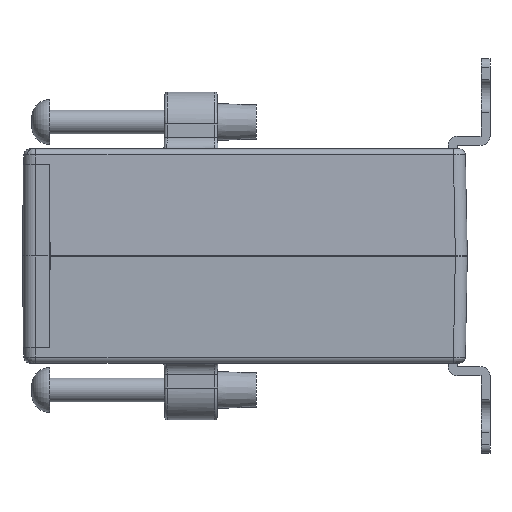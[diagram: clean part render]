
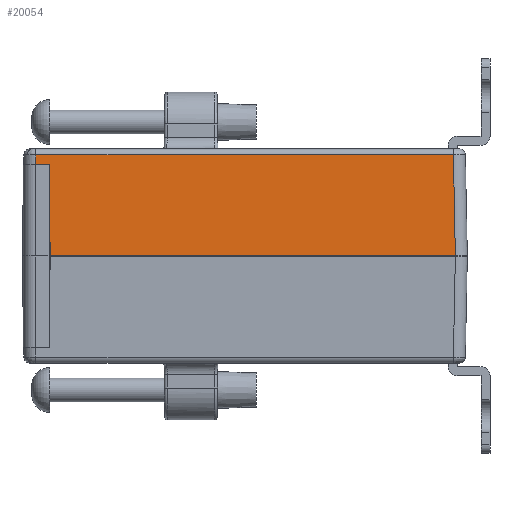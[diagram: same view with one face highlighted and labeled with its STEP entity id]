
A CAD part, left-side view. The second image highlights one B-rep face of the part: STEP entity #20054.
In plain terms, the highlighted planar face has unit normal (-1, 0, 0.019).
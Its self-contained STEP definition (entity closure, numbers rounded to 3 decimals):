
#600 = EDGE_CURVE ( 'NONE', #26166, #28615, #24438, .T. ) ;
#673 = EDGE_LOOP ( 'NONE', ( #8449, #3197, #12053, #15232, #9242, #26592, #20111 ) ) ;
#1307 = CARTESIAN_POINT ( 'NONE',  ( -1.935, -2.875, 17.962 ) ) ;
#1542 = VECTOR ( 'NONE', #4982, 1000. ) ;
#2334 = DIRECTION ( 'NONE',  ( 0., -1., 0. ) ) ;
#3197 = ORIENTED_EDGE ( 'NONE', *, *, #11518, .T. ) ;
#3206 = CARTESIAN_POINT ( 'NONE',  ( -2.28, -3.22, 0. ) ) ;
#3807 = CARTESIAN_POINT ( 'NONE',  ( -2.28, 64.51, 0. ) ) ;
#4023 = CARTESIAN_POINT ( 'NONE',  ( -2.28, -3.22, 0.011 ) ) ;
#4587 = LINE ( 'NONE', #15107, #12160 ) ;
#4982 = DIRECTION ( 'NONE',  ( -0.019, 0., -1. ) ) ;
#5139 = VECTOR ( 'NONE', #10763, 1000. ) ;
#5263 = LINE ( 'NONE', #3206, #1542 ) ;
#5993 = EDGE_CURVE ( 'NONE', #24108, #26166, #24553, .T. ) ;
#6678 = CARTESIAN_POINT ( 'NONE',  ( -2.28, -58., 0. ) ) ;
#6867 = CARTESIAN_POINT ( 'NONE',  ( -1.985, 45.845, 15.35 ) ) ;
#7860 = VERTEX_POINT ( 'NONE', #4023 ) ;
#8139 = VECTOR ( 'NONE', #26911, 1000. ) ;
#8449 = ORIENTED_EDGE ( 'NONE', *, *, #13591, .T. ) ;
#8815 = CARTESIAN_POINT ( 'NONE',  ( -2.28, 45.845, 0. ) ) ;
#9240 = CARTESIAN_POINT ( 'NONE',  ( -2.28, -3.22, 0. ) ) ;
#9242 = ORIENTED_EDGE ( 'NONE', *, *, #600, .T. ) ;
#9446 = EDGE_CURVE ( 'NONE', #7860, #16250, #5263, .T. ) ;
#9902 = EDGE_CURVE ( 'NONE', #20363, #24108, #25661, .T. ) ;
#10361 = CARTESIAN_POINT ( 'NONE',  ( -1.953, 66.894, 17.019 ) ) ;
#10613 = DIRECTION ( 'NONE',  ( -0.019, 0.019, -1. ) ) ;
#10763 = DIRECTION ( 'NONE',  ( 0., 1., 0. ) ) ;
#11101 = EDGE_CURVE ( 'NONE', #16250, #28615, #18065, .T. ) ;
#11447 = CARTESIAN_POINT ( 'NONE',  ( -1.944, 64.724, 17.485 ) ) ;
#11518 = EDGE_CURVE ( 'NONE', #22414, #20363, #4587, .T. ) ;
#12053 = ORIENTED_EDGE ( 'NONE', *, *, #9902, .T. ) ;
#12160 = VECTOR ( 'NONE', #20078, 1000. ) ;
#12294 = DIRECTION ( 'NONE',  ( 0.019, 0.019, 1. ) ) ;
#13591 = EDGE_CURVE ( 'NONE', #7860, #22414, #14197, .T. ) ;
#14197 = LINE ( 'NONE', #1307, #25799 ) ;
#15107 = CARTESIAN_POINT ( 'NONE',  ( -1.953, 66.875, 17.019 ) ) ;
#15232 = ORIENTED_EDGE ( 'NONE', *, *, #5993, .T. ) ;
#16250 = VERTEX_POINT ( 'NONE', #9240 ) ;
#17177 = CARTESIAN_POINT ( 'NONE',  ( -2.272, 67.212, 0.41 ) ) ;
#18065 = LINE ( 'NONE', #6678, #5139 ) ;
#18273 = CARTESIAN_POINT ( 'NONE',  ( -1.985, 64.698, 15.35 ) ) ;
#20054 = ADVANCED_FACE ( 'NONE', ( #24155 ), #24019, .T. ) ;
#20078 = DIRECTION ( 'NONE',  ( 0., 1., 0. ) ) ;
#20111 = ORIENTED_EDGE ( 'NONE', *, *, #9446, .F. ) ;
#20363 = VERTEX_POINT ( 'NONE', #10361 ) ;
#21701 = CARTESIAN_POINT ( 'NONE',  ( -1.953, -2.894, 17.019 ) ) ;
#21846 = VECTOR ( 'NONE', #2334, 1000. ) ;
#22003 = CARTESIAN_POINT ( 'NONE',  ( -1.985, 66.926, 15.35 ) ) ;
#22040 = AXIS2_PLACEMENT_3D ( 'NONE', #8815, #22122, #26495 ) ;
#22122 = DIRECTION ( 'NONE',  ( -1., 0., 0.019 ) ) ;
#22414 = VERTEX_POINT ( 'NONE', #21701 ) ;
#24019 = PLANE ( 'NONE',  #22040 ) ;
#24108 = VERTEX_POINT ( 'NONE', #22003 ) ;
#24155 = FACE_OUTER_BOUND ( 'NONE', #673, .T. ) ;
#24438 = LINE ( 'NONE', #11447, #8139 ) ;
#24553 = LINE ( 'NONE', #6867, #21846 ) ;
#24869 = VECTOR ( 'NONE', #10613, 1000. ) ;
#25661 = LINE ( 'NONE', #17177, #24869 ) ;
#25799 = VECTOR ( 'NONE', #12294, 1000. ) ;
#26166 = VERTEX_POINT ( 'NONE', #18273 ) ;
#26495 = DIRECTION ( 'NONE',  ( 0.019, 0., 1. ) ) ;
#26592 = ORIENTED_EDGE ( 'NONE', *, *, #11101, .F. ) ;
#26911 = DIRECTION ( 'NONE',  ( -0.019, -0.012, -1. ) ) ;
#28615 = VERTEX_POINT ( 'NONE', #3807 ) ;
